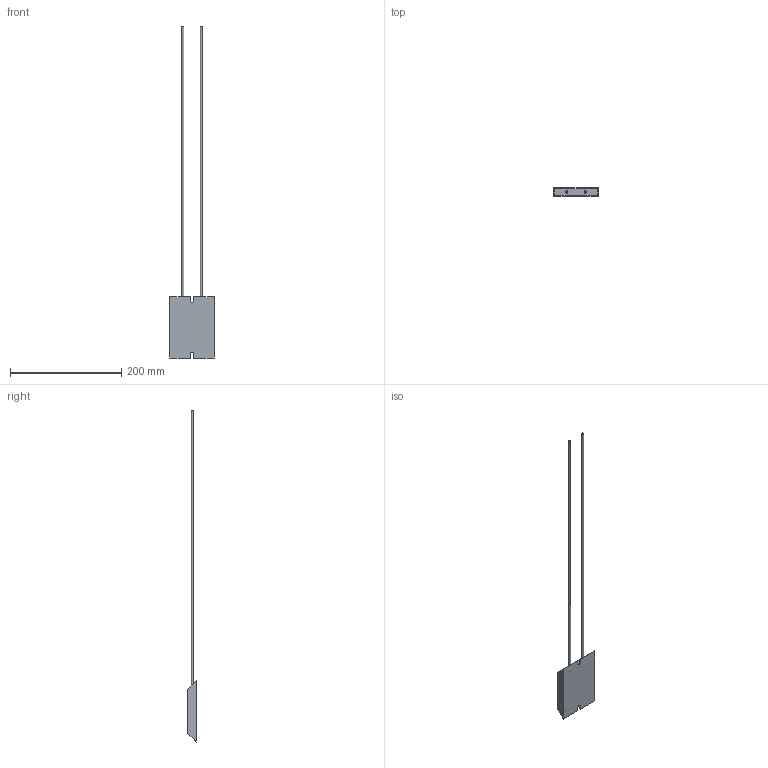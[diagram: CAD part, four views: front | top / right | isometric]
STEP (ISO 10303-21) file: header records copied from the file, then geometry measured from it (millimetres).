
FILE_DESCRIPTION(/* description */ (''),/* implementation_level */ '2;1');
FILE_NAME(/* name */ 'C:\_Vault\Dati\CATALOGO\RFD\RFDV150.stp',/* time_stamp */ '2014-03-24T18:28:35+01:00',/* author */ ('stefano'),/* organization */ (''),/* preprocessor_version */ 'ST-DEVELOPER v15.2',/* originating_system */ 'Autodesk Inventor 2014',/* authorisation */ '');
FILE_SCHEMA (('AUTOMOTIVE_DESIGN { 1 0 10303 214 3 1 1 }'));
Length unit declared in the file: millimetre
Products named in the file (1): RFDV150
Bounding box: 80 x 15 x 596.6 mm (x, y, z)
Volume: 115332 mm3; surface area: 35229.3 mm2
Topology: 1 solids, 1 shells, 28 faces, 66 edges, 44 vertices
Faces by surface type: plane 22, cylinder 6
Full cylindrical faces by diameter (mm): 2 x2, 4 x2
Entity records: 866 total; most frequent: CARTESIAN_POINT 135, DIRECTION 132, ORIENTED_EDGE 124, EDGE_CURVE 62, LINE 50, VECTOR 50, VERTEX_POINT 44, AXIS2_PLACEMENT_3D 41
